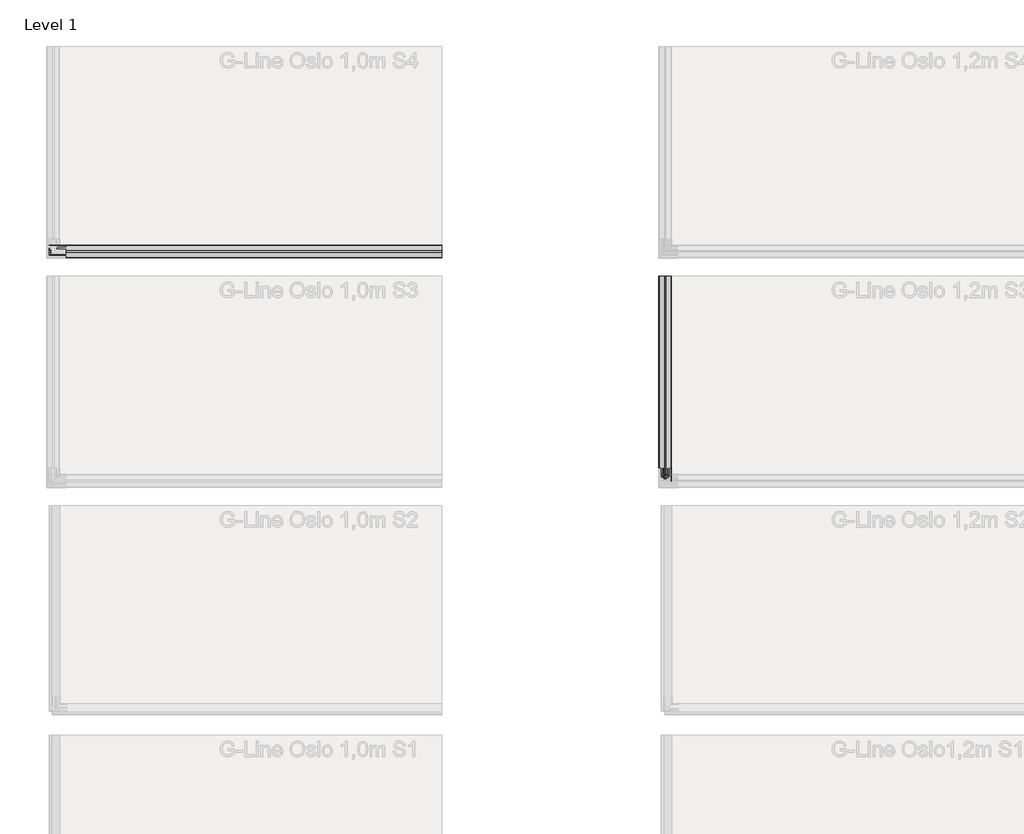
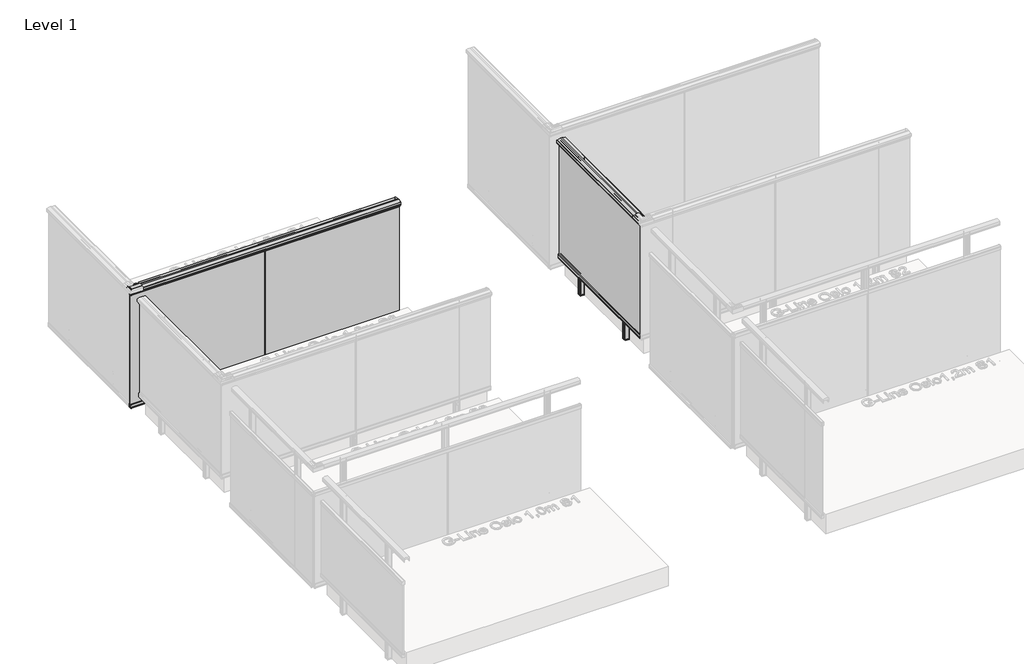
# One storey, part 45 of 66: 2 railings.
"""IFC4 building model written with IfcOpenShell, lengths in millimetres."""

from ifc_helpers import new_model, si_unit, point, frame, frame_2d, origin, place, context, project, spatial, polyline, circle_curve, trimmed, segment, composite_curve, outline, extrude, element, save

model = new_model("IFC4")

# Units and contexts
model_context = context("Model", 3, world=origin())
ifc_project = project(units=[si_unit("LENGTHUNIT", "METRE", prefix="MILLI")], contexts=[model_context])

# Site, building, storey
site = spatial("IfcSite", under=ifc_project)
building = spatial("IfcBuilding", under=site)
storey = spatial("IfcBuildingStorey", under=building, Name="Level 1", Elevation=0.0)

# Railings
placement = place(None, origin())
element("IfcRailing", 1, ObjectType="G-Line Oslo 1,0m  S4", at=placement, inside=storey, context=model_context, shape_type="SweptSolid", body=[
    extrude(outline(composite_curve([segment(polyline([(17132.289348, 970.6825033), (17131.6638671, 970.0570224), (17132.2491556, 969.4717338), (17132.289348, 965.5021186)]), True, "CONTINUOUS"), segment(trimmed(circle_curve(frame_2d((17131.789348, 965.5021186)), 0.5), [point((17132.289348, 965.5021186))], [point((17131.789348, 965.0021186))], False, "CARTESIAN"), True, "CONTINUOUS"), segment(polyline([(17131.789348, 965.0021186), (17130.789348, 965.0021186), (17130.789348, 979.5021186)]), True, "CONTINUOUS"), segment(trimmed(circle_curve(frame_2d((17130.289348, 979.5021186)), 0.5), [point((17130.789348, 979.5021186))], [point((17130.289348, 980.0021186))], True, "CARTESIAN"), True, "CONTINUOUS"), segment(polyline([(17130.289348, 980.0021186), (17052.289348, 980.0021186)]), True, "CONTINUOUS"), segment(trimmed(circle_curve(frame_2d((17052.289348, 979.5021186)), 0.5), [point((17052.289348, 980.0021186))], [point((17051.789348, 979.5021186))], True, "CARTESIAN"), True, "CONTINUOUS"), segment(polyline([(17051.789348, 979.5021186), (17051.789348, 965.0021186), (17050.789348, 965.0021186)]), True, "CONTINUOUS"), segment(trimmed(circle_curve(frame_2d((17050.789348, 965.5021186)), 0.5), [point((17050.789348, 965.0021186))], [point((17050.289348, 965.5021186))], False, "CARTESIAN"), True, "CONTINUOUS"), segment(polyline([(17050.289348, 965.5021186), (17050.289348, 969.2627449), (17050.9443234, 969.9177203), (17050.3295404, 970.5325033), (17050.289348, 991.2139911)]), True, "CONTINUOUS"), segment(trimmed(circle_curve(frame_2d((17053.289348, 991.2139911)), 3.0), [point((17050.289348, 991.2139911))], [point((17052.2228567, 994.0180233))], False, "CARTESIAN"), True, "CONTINUOUS"), segment(trimmed(circle_curve(frame_2d((17084.789348, 908.3938053)), 91.6083133), [point((17052.2228567, 994.0180233))], [point((17084.789348, 1000.0021186))], False, "CARTESIAN"), True, "CONTINUOUS"), segment(polyline([(17084.789348, 1000.0021186), (17097.789348, 1000.0021186)]), True, "CONTINUOUS"), segment(trimmed(circle_curve(frame_2d((17097.789348, 908.3938053)), 91.6083133), [point((17097.789348, 1000.0021186))], [point((17130.3558394, 994.0180233))], False, "CARTESIAN"), True, "CONTINUOUS"), segment(trimmed(circle_curve(frame_2d((17129.289348, 991.2139911)), 3.0), [point((17130.3558394, 994.0180233))], [point((17132.289348, 991.2139911))], False, "CARTESIAN"), True, "CONTINUOUS"), segment(polyline([(17132.289348, 991.2139911), (17132.289348, 970.6825033)]), True, "CONTINUOUS")], self_intersect=False)), frame((4439.0547322, 0.0, 0.0), z_axis=(1.0, 0.0, 0.0), x_axis=(0.0, 1.0, 0.0)), (0.0, 0.0, 1.0), 2565.0),
    extrude(outline(composite_curve([segment(polyline([(17082.0487504, 941.0), (17072.5287505, 941.0), (17065.2886441, 941.0)]), True, "CONTINUOUS"), segment(trimmed(circle_curve(frame_2d((17065.2886441, 941.5)), 0.5), [point((17065.2886441, 941.0))], [point((17064.7886441, 941.5))], False, "CARTESIAN"), True, "CONTINUOUS"), segment(polyline([(17064.7886441, 941.5), (17064.7886441, 969.4642612), (17065.2520415, 970.5008136), (17064.8288365, 971.3802866), (17064.7886441, 976.5)]), True, "CONTINUOUS"), segment(trimmed(circle_curve(frame_2d((17066.2886441, 976.5)), 1.5), [point((17064.7886441, 976.5))], [point((17066.2886441, 978.0))], False, "CARTESIAN"), True, "CONTINUOUS"), segment(polyline([(17066.2886441, 978.0), (17088.2886441, 978.0)]), True, "CONTINUOUS"), segment(trimmed(circle_curve(frame_2d((17088.2886441, 976.5)), 1.5), [point((17088.2886441, 978.0))], [point((17089.7886441, 976.5))], False, "CARTESIAN"), True, "CONTINUOUS"), segment(polyline([(17089.7886441, 976.5), (17089.7886441, 971.5302866), (17089.3252466, 970.5701988), (17089.7484517, 969.6142612), (17089.7484517, 941.6964102)]), True, "CONTINUOUS"), segment(trimmed(circle_curve(frame_2d((17089.2886441, 941.5)), 0.5), [point((17089.7484517, 941.6964102))], [point((17089.2886441, 941.0))], False, "CARTESIAN"), True, "CONTINUOUS"), segment(polyline([(17089.2886441, 941.0), (17082.0487504, 941.0)]), True, "CONTINUOUS")], self_intersect=False)), frame((4439.0547322, 0.0, 0.0), z_axis=(1.0, 0.0, 0.0), x_axis=(0.0, 1.0, 0.0)), (0.0, 0.0, 1.0), 2565.0),
    extrude(outline(polyline([(7004.0547322, 17081.6686441), (7004.0547322, 17072.9086441), (4439.0547322, 17072.9086441), (4439.0547322, 17081.6686441), (7004.0547322, 17081.6686441)])), frame((0.0, 0.0, -200.0), z_axis=(0.0, 0.0, 1.0), x_axis=(1.0, 0.0, 0.0)), (0.0, 0.0, 1.0), 1180.0),
    extrude(outline(composite_curve([segment(polyline([(17072.5285377, -163.0), (17082.0485377, -163.0), (17089.2886441, -163.0)]), True, "CONTINUOUS"), segment(trimmed(circle_curve(frame_2d((17089.2886441, -163.5)), 0.5), [point((17089.2886441, -163.0))], [point((17089.7886441, -163.5))], False, "CARTESIAN"), True, "CONTINUOUS"), segment(polyline([(17089.7886441, -163.5), (17089.7886441, -191.4642612), (17089.3252466, -192.5008136), (17089.7484517, -193.3802866), (17089.7886441, -198.5)]), True, "CONTINUOUS"), segment(trimmed(circle_curve(frame_2d((17088.2886441, -198.5)), 1.5), [point((17089.7886441, -198.5))], [point((17088.2886441, -200.0))], False, "CARTESIAN"), True, "CONTINUOUS"), segment(polyline([(17088.2886441, -200.0), (17066.2886441, -200.0)]), True, "CONTINUOUS"), segment(trimmed(circle_curve(frame_2d((17066.2886441, -198.5)), 1.5), [point((17066.2886441, -200.0))], [point((17064.7886441, -198.5))], False, "CARTESIAN"), True, "CONTINUOUS"), segment(polyline([(17064.7886441, -198.5), (17064.7886441, -193.5302866), (17065.2520415, -192.5701988), (17064.8288365, -191.6142612), (17064.8288365, -163.6964102)]), True, "CONTINUOUS"), segment(trimmed(circle_curve(frame_2d((17065.2886441, -163.5)), 0.5), [point((17064.8288365, -163.6964102))], [point((17065.2886441, -163.0))], False, "CARTESIAN"), True, "CONTINUOUS"), segment(polyline([(17065.2886441, -163.0), (17072.5285377, -163.0)]), True, "CONTINUOUS")], self_intersect=False)), frame((4439.0547322, 0.0, 0.0), z_axis=(1.0, 0.0, 0.0), x_axis=(0.0, 1.0, 0.0)), (0.0, 0.0, 1.0), 2565.0),
    extrude(outline(polyline([(5725.5547322, 17070.2118492), (5717.5547322, 17070.2118492), (5717.5547322, 17078.2118492), (5725.5547322, 17078.2118492), (5725.5547322, 17070.2118492)])), frame((0.0, 0.0, -200.0), z_axis=(0.0, 0.0, 1.0), x_axis=(1.0, 0.0, 0.0)), (0.0, 0.0, 1.0), 1141.0),
    extrude(outline(composite_curve([segment(polyline([(5720.7519452, 17130.2886441), (5721.5547322, 17129.4858571), (5722.3225694, 17130.2536942), (5739.3808193, 17130.2886441)]), True, "CONTINUOUS"), segment(trimmed(circle_curve(frame_2d((5739.3808192, 17128.114731)), 2.173913), [point((5739.3808193, 17130.2886441))], [point((5741.5547322, 17128.114731))], False, "CARTESIAN"), True, "CONTINUOUS"), segment(polyline([(5741.5547322, 17128.114731), (5741.5547322, 17092.4625571)]), True, "CONTINUOUS"), segment(trimmed(circle_curve(frame_2d((5739.3808192, 17092.4625571)), 2.173913), [point((5741.5547322, 17092.4625571))], [point((5739.3808192, 17090.2886441))], False, "CARTESIAN"), True, "CONTINUOUS"), segment(polyline([(5739.3808192, 17090.2886441), (5722.3225694, 17090.323594), (5721.5547322, 17091.0914311), (5720.7868951, 17090.323594), (5703.7286453, 17090.2886441)]), True, "CONTINUOUS"), segment(trimmed(circle_curve(frame_2d((5703.7286453, 17092.4625571)), 2.173913), [point((5703.7286453, 17090.2886441))], [point((5701.5547322, 17092.4625571))], False, "CARTESIAN"), True, "CONTINUOUS"), segment(polyline([(5701.5547322, 17092.4625571), (5701.5547322, 17128.114731)]), True, "CONTINUOUS"), segment(trimmed(circle_curve(frame_2d((5703.7286453, 17128.114731)), 2.173913), [point((5701.5547322, 17128.114731))], [point((5703.7286453, 17130.2886441))], False, "CARTESIAN"), True, "CONTINUOUS"), segment(polyline([(5703.7286453, 17130.2886441), (5720.7519452, 17130.2886441)]), True, "CONTINUOUS")], self_intersect=False)), frame((0.0, 0.0, -200.0), z_axis=(0.0, 0.0, 1.0), x_axis=(1.0, 0.0, 0.0)), (0.0, 0.0, 1.0), 10.0),
    extrude(outline(composite_curve([segment(polyline([(5741.5547322, 17128.114731), (5741.5547322, 17092.4625571)]), True, "CONTINUOUS"), segment(trimmed(circle_curve(frame_2d((5739.3808192, 17092.4625571)), 2.173913), [point((5741.5547322, 17092.4625571))], [point((5739.3808192, 17090.2886441))], False, "CARTESIAN"), True, "CONTINUOUS"), segment(polyline([(5739.3808192, 17090.2886441), (5722.3225694, 17090.323594), (5721.5547322, 17091.0914311), (5720.7868951, 17090.323594), (5703.7286453, 17090.2886441)]), True, "CONTINUOUS"), segment(trimmed(circle_curve(frame_2d((5703.7286453, 17092.4625571)), 2.173913), [point((5703.7286453, 17090.2886441))], [point((5701.5547322, 17092.4625571))], False, "CARTESIAN"), True, "CONTINUOUS"), segment(polyline([(5701.5547322, 17092.4625571), (5701.5547322, 17128.114731)]), True, "CONTINUOUS"), segment(trimmed(circle_curve(frame_2d((5703.7286453, 17128.114731)), 2.173913), [point((5701.5547322, 17128.114731))], [point((5703.7286453, 17130.2886441))], False, "CARTESIAN"), True, "CONTINUOUS"), segment(polyline([(5703.7286453, 17130.2886441), (5720.6564603, 17130.2886441), (5721.4242975, 17129.8856898), (5722.3225694, 17130.2536942), (5739.3808192, 17130.2886441)]), True, "CONTINUOUS"), segment(trimmed(circle_curve(frame_2d((5739.3808192, 17128.114731)), 2.173913), [point((5739.3808192, 17130.2886441))], [point((5741.5547322, 17128.114731))], False, "CARTESIAN"), True, "CONTINUOUS")], self_intersect=False), holes=[composite_curve([segment(trimmed(circle_curve(frame_2d((5737.2069062, 17125.940818)), 0.8695652), [point((5738.0764714, 17125.940818))], [point((5737.2069062, 17126.8103832))], True, "CARTESIAN"), True, "CONTINUOUS"), segment(polyline([(5737.2069062, 17126.8103832), (5705.9025583, 17126.8103832)]), True, "CONTINUOUS"), segment(trimmed(circle_curve(frame_2d((5705.9025583, 17125.940818)), 0.8695652), [point((5705.9025583, 17126.8103832))], [point((5705.0329931, 17125.940818))], True, "CARTESIAN"), True, "CONTINUOUS"), segment(polyline([(5705.0329931, 17125.940818), (5705.0329931, 17094.6364702)]), True, "CONTINUOUS"), segment(trimmed(circle_curve(frame_2d((5705.9025583, 17094.6364702)), 0.8695652), [point((5705.0329931, 17094.6364702))], [point((5705.9025583, 17093.766905))], True, "CARTESIAN"), True, "CONTINUOUS"), segment(polyline([(5705.9025583, 17093.766905), (5737.2069062, 17093.766905)]), True, "CONTINUOUS"), segment(trimmed(circle_curve(frame_2d((5737.2069062, 17094.6364702)), 0.8695652), [point((5737.2069062, 17093.766905))], [point((5738.0764714, 17094.6364702))], True, "CARTESIAN"), True, "CONTINUOUS"), segment(polyline([(5738.0764714, 17094.6364702), (5738.0764714, 17125.940818)]), True, "CONTINUOUS")], self_intersect=False)]), frame((0.0, 0.0, -190.0), z_axis=(0.0, 0.0, 1.0), x_axis=(1.0, 0.0, 0.0)), (0.0, 0.0, 1.0), 1171.0),
    extrude(outline(composite_curve([segment(trimmed(circle_curve(frame_2d((0.0, -12.0)), 12.0), [point((0.0, -23.9999999))], [point((0.0, 0.0))], False, "CARTESIAN"), True, "CONTINUOUS"), segment(trimmed(circle_curve(frame_2d((0.0, -12.0)), 12.0), [point((0.0, 0.0))], [point((0.0, -23.9999999))], False, "CARTESIAN"), True, "CONTINUOUS")], self_intersect=False)), frame((5733.5650091, 17087.2248149, -151.0), z_axis=(-0.0004029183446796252, 0.9999999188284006, 0.0), x_axis=(0.0, 0.0, 1.0)), (0.0, 0.0, 1.0), 3.0757477),
    extrude(outline(composite_curve([segment(trimmed(circle_curve(frame_2d((0.0, -12.0)), 12.0), [point((0.0, -23.9999999))], [point((0.0, 0.0))], False, "CARTESIAN"), True, "CONTINUOUS"), segment(trimmed(circle_curve(frame_2d((0.0, -12.0)), 12.0), [point((0.0, 0.0))], [point((0.0, -23.9999999))], False, "CARTESIAN"), True, "CONTINUOUS")], self_intersect=False)), frame((5733.5650091, 17087.2248149, -50.0), z_axis=(-0.0004029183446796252, 0.9999999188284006, 0.0), x_axis=(0.0, 0.0, 1.0)), (0.0, 0.0, 1.0), 3.0757477),
    extrude(outline(composite_curve([segment(polyline([(4738.2519452, 17130.2886441), (4739.0547322, 17129.4858571), (4739.8225694, 17130.2536942), (4756.8808193, 17130.2886441)]), True, "CONTINUOUS"), segment(trimmed(circle_curve(frame_2d((4756.8808192, 17128.114731)), 2.173913), [point((4756.8808193, 17130.2886441))], [point((4759.0547322, 17128.114731))], False, "CARTESIAN"), True, "CONTINUOUS"), segment(polyline([(4759.0547322, 17128.114731), (4759.0547322, 17092.4625571)]), True, "CONTINUOUS"), segment(trimmed(circle_curve(frame_2d((4756.8808192, 17092.4625571)), 2.173913), [point((4759.0547322, 17092.4625571))], [point((4756.8808192, 17090.2886441))], False, "CARTESIAN"), True, "CONTINUOUS"), segment(polyline([(4756.8808192, 17090.2886441), (4739.8225694, 17090.323594), (4739.0547322, 17091.0914311), (4738.2868951, 17090.323594), (4721.2286453, 17090.2886441)]), True, "CONTINUOUS"), segment(trimmed(circle_curve(frame_2d((4721.2286453, 17092.4625571)), 2.173913), [point((4721.2286453, 17090.2886441))], [point((4719.0547322, 17092.4625571))], False, "CARTESIAN"), True, "CONTINUOUS"), segment(polyline([(4719.0547322, 17092.4625571), (4719.0547322, 17128.114731)]), True, "CONTINUOUS"), segment(trimmed(circle_curve(frame_2d((4721.2286453, 17128.114731)), 2.173913), [point((4719.0547322, 17128.114731))], [point((4721.2286453, 17130.2886441))], False, "CARTESIAN"), True, "CONTINUOUS"), segment(polyline([(4721.2286453, 17130.2886441), (4738.2519452, 17130.2886441)]), True, "CONTINUOUS")], self_intersect=False)), frame((0.0, 0.0, -200.0), z_axis=(0.0, 0.0, 1.0), x_axis=(1.0, 0.0, 0.0)), (0.0, 0.0, 1.0), 10.0),
    extrude(outline(composite_curve([segment(polyline([(4759.0547322, 17128.114731), (4759.0547322, 17092.4625571)]), True, "CONTINUOUS"), segment(trimmed(circle_curve(frame_2d((4756.8808192, 17092.4625571)), 2.173913), [point((4759.0547322, 17092.4625571))], [point((4756.8808192, 17090.2886441))], False, "CARTESIAN"), True, "CONTINUOUS"), segment(polyline([(4756.8808192, 17090.2886441), (4739.8225694, 17090.323594), (4739.0547322, 17091.0914311), (4738.2868951, 17090.323594), (4721.2286453, 17090.2886441)]), True, "CONTINUOUS"), segment(trimmed(circle_curve(frame_2d((4721.2286453, 17092.4625571)), 2.173913), [point((4721.2286453, 17090.2886441))], [point((4719.0547322, 17092.4625571))], False, "CARTESIAN"), True, "CONTINUOUS"), segment(polyline([(4719.0547322, 17092.4625571), (4719.0547322, 17128.114731)]), True, "CONTINUOUS"), segment(trimmed(circle_curve(frame_2d((4721.2286453, 17128.114731)), 2.173913), [point((4719.0547322, 17128.114731))], [point((4721.2286453, 17130.2886441))], False, "CARTESIAN"), True, "CONTINUOUS"), segment(polyline([(4721.2286453, 17130.2886441), (4738.1564603, 17130.2886441), (4738.9242975, 17129.8856898), (4739.8225694, 17130.2536942), (4756.8808192, 17130.2886441)]), True, "CONTINUOUS"), segment(trimmed(circle_curve(frame_2d((4756.8808192, 17128.114731)), 2.173913), [point((4756.8808192, 17130.2886441))], [point((4759.0547322, 17128.114731))], False, "CARTESIAN"), True, "CONTINUOUS")], self_intersect=False), holes=[composite_curve([segment(trimmed(circle_curve(frame_2d((4754.7069062, 17125.940818)), 0.8695652), [point((4755.5764714, 17125.940818))], [point((4754.7069062, 17126.8103832))], True, "CARTESIAN"), True, "CONTINUOUS"), segment(polyline([(4754.7069062, 17126.8103832), (4723.4025583, 17126.8103832)]), True, "CONTINUOUS"), segment(trimmed(circle_curve(frame_2d((4723.4025583, 17125.940818)), 0.8695652), [point((4723.4025583, 17126.8103832))], [point((4722.5329931, 17125.940818))], True, "CARTESIAN"), True, "CONTINUOUS"), segment(polyline([(4722.5329931, 17125.940818), (4722.5329931, 17094.6364702)]), True, "CONTINUOUS"), segment(trimmed(circle_curve(frame_2d((4723.4025583, 17094.6364702)), 0.8695652), [point((4722.5329931, 17094.6364702))], [point((4723.4025583, 17093.766905))], True, "CARTESIAN"), True, "CONTINUOUS"), segment(polyline([(4723.4025583, 17093.766905), (4754.7069062, 17093.766905)]), True, "CONTINUOUS"), segment(trimmed(circle_curve(frame_2d((4754.7069062, 17094.6364702)), 0.8695652), [point((4754.7069062, 17093.766905))], [point((4755.5764714, 17094.6364702))], True, "CARTESIAN"), True, "CONTINUOUS"), segment(polyline([(4755.5764714, 17094.6364702), (4755.5764714, 17125.940818)]), True, "CONTINUOUS")], self_intersect=False)]), frame((0.0, 0.0, -190.0), z_axis=(0.0, 0.0, 1.0), x_axis=(1.0, 0.0, 0.0)), (0.0, 0.0, 1.0), 1171.0),
    extrude(outline(composite_curve([segment(trimmed(circle_curve(frame_2d((0.0, -12.0)), 12.0), [point((0.0, -23.9999999))], [point((0.0, 0.0))], False, "CARTESIAN"), True, "CONTINUOUS"), segment(trimmed(circle_curve(frame_2d((0.0, -12.0)), 12.0), [point((0.0, 0.0))], [point((0.0, -23.9999999))], False, "CARTESIAN"), True, "CONTINUOUS")], self_intersect=False)), frame((4751.0650091, 17087.2248149, -151.0), z_axis=(-0.0004029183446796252, 0.9999999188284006, 0.0), x_axis=(0.0, 0.0, 1.0)), (0.0, 0.0, 1.0), 3.0757477),
    extrude(outline(composite_curve([segment(trimmed(circle_curve(frame_2d((0.0, -12.0)), 12.0), [point((0.0, -23.9999999))], [point((0.0, 0.0))], False, "CARTESIAN"), True, "CONTINUOUS"), segment(trimmed(circle_curve(frame_2d((0.0, -12.0)), 12.0), [point((0.0, 0.0))], [point((0.0, -23.9999999))], False, "CARTESIAN"), True, "CONTINUOUS")], self_intersect=False)), frame((4751.0650091, 17087.2248149, -50.0), z_axis=(-0.0004029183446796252, 0.9999999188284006, 0.0), x_axis=(0.0, 0.0, 1.0)), (0.0, 0.0, 1.0), 3.0757477),
    extrude(outline(composite_curve([segment(polyline([(6703.2519452, 17130.2886441), (6704.0547322, 17129.4858571), (6704.8225694, 17130.2536942), (6721.8808193, 17130.2886441)]), True, "CONTINUOUS"), segment(trimmed(circle_curve(frame_2d((6721.8808192, 17128.114731)), 2.173913), [point((6721.8808193, 17130.2886441))], [point((6724.0547322, 17128.114731))], False, "CARTESIAN"), True, "CONTINUOUS"), segment(polyline([(6724.0547322, 17128.114731), (6724.0547322, 17092.4625571)]), True, "CONTINUOUS"), segment(trimmed(circle_curve(frame_2d((6721.8808192, 17092.4625571)), 2.173913), [point((6724.0547322, 17092.4625571))], [point((6721.8808192, 17090.2886441))], False, "CARTESIAN"), True, "CONTINUOUS"), segment(polyline([(6721.8808192, 17090.2886441), (6704.8225694, 17090.323594), (6704.0547322, 17091.0914311), (6703.2868951, 17090.323594), (6686.2286453, 17090.2886441)]), True, "CONTINUOUS"), segment(trimmed(circle_curve(frame_2d((6686.2286453, 17092.4625571)), 2.173913), [point((6686.2286453, 17090.2886441))], [point((6684.0547322, 17092.4625571))], False, "CARTESIAN"), True, "CONTINUOUS"), segment(polyline([(6684.0547322, 17092.4625571), (6684.0547322, 17128.114731)]), True, "CONTINUOUS"), segment(trimmed(circle_curve(frame_2d((6686.2286453, 17128.114731)), 2.173913), [point((6684.0547322, 17128.114731))], [point((6686.2286453, 17130.2886441))], False, "CARTESIAN"), True, "CONTINUOUS"), segment(polyline([(6686.2286453, 17130.2886441), (6703.2519452, 17130.2886441)]), True, "CONTINUOUS")], self_intersect=False)), frame((0.0, 0.0, -200.0), z_axis=(0.0, 0.0, 1.0), x_axis=(1.0, 0.0, 0.0)), (0.0, 0.0, 1.0), 10.0),
    extrude(outline(composite_curve([segment(polyline([(6724.0547322, 17128.114731), (6724.0547322, 17092.4625571)]), True, "CONTINUOUS"), segment(trimmed(circle_curve(frame_2d((6721.8808192, 17092.4625571)), 2.173913), [point((6724.0547322, 17092.4625571))], [point((6721.8808192, 17090.2886441))], False, "CARTESIAN"), True, "CONTINUOUS"), segment(polyline([(6721.8808192, 17090.2886441), (6704.8225694, 17090.323594), (6704.0547322, 17091.0914311), (6703.2868951, 17090.323594), (6686.2286453, 17090.2886441)]), True, "CONTINUOUS"), segment(trimmed(circle_curve(frame_2d((6686.2286453, 17092.4625571)), 2.173913), [point((6686.2286453, 17090.2886441))], [point((6684.0547322, 17092.4625571))], False, "CARTESIAN"), True, "CONTINUOUS"), segment(polyline([(6684.0547322, 17092.4625571), (6684.0547322, 17128.114731)]), True, "CONTINUOUS"), segment(trimmed(circle_curve(frame_2d((6686.2286453, 17128.114731)), 2.173913), [point((6684.0547322, 17128.114731))], [point((6686.2286453, 17130.2886441))], False, "CARTESIAN"), True, "CONTINUOUS"), segment(polyline([(6686.2286453, 17130.2886441), (6703.1564603, 17130.2886441), (6703.9242975, 17129.8856898), (6704.8225694, 17130.2536942), (6721.8808192, 17130.2886441)]), True, "CONTINUOUS"), segment(trimmed(circle_curve(frame_2d((6721.8808192, 17128.114731)), 2.173913), [point((6721.8808192, 17130.2886441))], [point((6724.0547322, 17128.114731))], False, "CARTESIAN"), True, "CONTINUOUS")], self_intersect=False), holes=[composite_curve([segment(trimmed(circle_curve(frame_2d((6719.7069062, 17125.940818)), 0.8695652), [point((6720.5764714, 17125.940818))], [point((6719.7069062, 17126.8103832))], True, "CARTESIAN"), True, "CONTINUOUS"), segment(polyline([(6719.7069062, 17126.8103832), (6688.4025583, 17126.8103832)]), True, "CONTINUOUS"), segment(trimmed(circle_curve(frame_2d((6688.4025583, 17125.940818)), 0.8695652), [point((6688.4025583, 17126.8103832))], [point((6687.5329931, 17125.940818))], True, "CARTESIAN"), True, "CONTINUOUS"), segment(polyline([(6687.5329931, 17125.940818), (6687.5329931, 17094.6364702)]), True, "CONTINUOUS"), segment(trimmed(circle_curve(frame_2d((6688.4025583, 17094.6364702)), 0.8695652), [point((6687.5329931, 17094.6364702))], [point((6688.4025583, 17093.766905))], True, "CARTESIAN"), True, "CONTINUOUS"), segment(polyline([(6688.4025583, 17093.766905), (6719.7069062, 17093.766905)]), True, "CONTINUOUS"), segment(trimmed(circle_curve(frame_2d((6719.7069062, 17094.6364702)), 0.8695652), [point((6719.7069062, 17093.766905))], [point((6720.5764714, 17094.6364702))], True, "CARTESIAN"), True, "CONTINUOUS"), segment(polyline([(6720.5764714, 17094.6364702), (6720.5764714, 17125.940818)]), True, "CONTINUOUS")], self_intersect=False)]), frame((0.0, 0.0, -190.0), z_axis=(0.0, 0.0, 1.0), x_axis=(1.0, 0.0, 0.0)), (0.0, 0.0, 1.0), 1171.0),
    extrude(outline(composite_curve([segment(trimmed(circle_curve(frame_2d((0.0, -12.0)), 12.0), [point((0.0, -23.9999999))], [point((0.0, 0.0))], False, "CARTESIAN"), True, "CONTINUOUS"), segment(trimmed(circle_curve(frame_2d((0.0, -12.0)), 12.0), [point((0.0, 0.0))], [point((0.0, -23.9999999))], False, "CARTESIAN"), True, "CONTINUOUS")], self_intersect=False)), frame((6716.0650091, 17087.2248149, -151.0), z_axis=(-0.0004029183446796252, 0.9999999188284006, 0.0), x_axis=(0.0, 0.0, 1.0)), (0.0, 0.0, 1.0), 3.0757477),
    extrude(outline(composite_curve([segment(trimmed(circle_curve(frame_2d((0.0, -12.0)), 12.0), [point((0.0, -23.9999999))], [point((0.0, 0.0))], False, "CARTESIAN"), True, "CONTINUOUS"), segment(trimmed(circle_curve(frame_2d((0.0, -12.0)), 12.0), [point((0.0, 0.0))], [point((0.0, -23.9999999))], False, "CARTESIAN"), True, "CONTINUOUS")], self_intersect=False)), frame((6716.0650091, 17087.2248149, -50.0), z_axis=(-0.0004029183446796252, 0.9999999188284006, 0.0), x_axis=(0.0, 0.0, 1.0)), (0.0, 0.0, 1.0), 3.0757477),
])
element("IfcRailing", 2, ObjectType="G-Line Oslo 1,2m  S3", at=placement, inside=storey, context=model_context, shape_type="SweptSolid", body=[
    extrude(outline(composite_curve([segment(polyline([(1170.6825033, 8424.0540283), (1170.0570224, 8424.6795093), (1169.4717338, 8424.0942207), (1165.5021186, 8424.0540283)]), True, "CONTINUOUS"), segment(trimmed(circle_curve(frame_2d((1165.5021186, 8424.5540283)), 0.5), [point((1165.5021186, 8424.0540283))], [point((1165.0021186, 8424.5540283))], False, "CARTESIAN"), True, "CONTINUOUS"), segment(polyline([(1165.0021186, 8424.5540283), (1165.0021186, 8425.5540283), (1179.5021186, 8425.5540283)]), True, "CONTINUOUS"), segment(trimmed(circle_curve(frame_2d((1179.5021186, 8426.0540283)), 0.5), [point((1179.5021186, 8425.5540283))], [point((1180.0021186, 8426.0540283))], True, "CARTESIAN"), True, "CONTINUOUS"), segment(polyline([(1180.0021186, 8426.0540283), (1180.0021186, 8504.0540283)]), True, "CONTINUOUS"), segment(trimmed(circle_curve(frame_2d((1179.5021186, 8504.0540283)), 0.5), [point((1180.0021186, 8504.0540283))], [point((1179.5021186, 8504.5540283))], True, "CARTESIAN"), True, "CONTINUOUS"), segment(polyline([(1179.5021186, 8504.5540283), (1165.0021186, 8504.5540283), (1165.0021186, 8505.5540283)]), True, "CONTINUOUS"), segment(trimmed(circle_curve(frame_2d((1165.5021186, 8505.5540283)), 0.5), [point((1165.0021186, 8505.5540283))], [point((1165.5021186, 8506.0540283))], False, "CARTESIAN"), True, "CONTINUOUS"), segment(polyline([(1165.5021186, 8506.0540283), (1169.2627449, 8506.0540283), (1169.9177203, 8505.3990529), (1170.5325033, 8506.0138359), (1191.2139911, 8506.0540283)]), True, "CONTINUOUS"), segment(trimmed(circle_curve(frame_2d((1191.2139911, 8503.0540283)), 3.0), [point((1191.2139911, 8506.0540283))], [point((1194.0180233, 8504.1205197))], False, "CARTESIAN"), True, "CONTINUOUS"), segment(trimmed(circle_curve(frame_2d((1108.3938053, 8471.5540283)), 91.6083133), [point((1194.0180233, 8504.1205197))], [point((1200.0021186, 8471.5540283))], False, "CARTESIAN"), True, "CONTINUOUS"), segment(polyline([(1200.0021186, 8471.5540283), (1200.0021186, 8458.5540283)]), True, "CONTINUOUS"), segment(trimmed(circle_curve(frame_2d((1108.3938053, 8458.5540283)), 91.6083133), [point((1200.0021186, 8458.5540283))], [point((1194.0180233, 8425.987537))], False, "CARTESIAN"), True, "CONTINUOUS"), segment(trimmed(circle_curve(frame_2d((1191.2139911, 8427.0540283)), 3.0), [point((1194.0180233, 8425.987537))], [point((1191.2139911, 8424.0540283))], False, "CARTESIAN"), True, "CONTINUOUS"), segment(polyline([(1191.2139911, 8424.0540283), (1170.6825033, 8424.0540283)]), True, "CONTINUOUS")], self_intersect=False)), frame((0.0, 15590.2886441, 0.0), z_axis=(0.0, 1.0, 0.0), x_axis=(0.0, 0.0, 1.0)), (0.0, 0.0, 1.0), 1340.0),
    extrude(outline(composite_curve([segment(polyline([(1141.0, 8455.8148386), (1141.0, 8463.0547322)]), True, "CONTINUOUS"), segment(trimmed(circle_curve(frame_2d((1141.5, 8463.0547322)), 0.5), [point((1141.0, 8463.0547322))], [point((1141.6964102, 8463.5145399))], False, "CARTESIAN"), True, "CONTINUOUS"), segment(polyline([(1141.6964102, 8463.5145399), (1169.6142612, 8463.5145399), (1170.5701988, 8463.0913348), (1171.5302866, 8463.5547322), (1176.5, 8463.5547322)]), True, "CONTINUOUS"), segment(trimmed(circle_curve(frame_2d((1176.5, 8462.0547322)), 1.5), [point((1176.5, 8463.5547322))], [point((1178.0, 8462.0547322))], False, "CARTESIAN"), True, "CONTINUOUS"), segment(polyline([(1178.0, 8462.0547322), (1178.0, 8440.0547322)]), True, "CONTINUOUS"), segment(trimmed(circle_curve(frame_2d((1176.5, 8440.0547322)), 1.5), [point((1178.0, 8440.0547322))], [point((1176.5, 8438.5547322))], False, "CARTESIAN"), True, "CONTINUOUS"), segment(polyline([(1176.5, 8438.5547322), (1171.3802866, 8438.5949246), (1170.5008136, 8439.0181297), (1169.4642612, 8438.5547322), (1141.5, 8438.5547322)]), True, "CONTINUOUS"), segment(trimmed(circle_curve(frame_2d((1141.5, 8439.0547322)), 0.5), [point((1141.5, 8438.5547322))], [point((1141.0, 8439.0547322))], False, "CARTESIAN"), True, "CONTINUOUS"), segment(polyline([(1141.0, 8439.0547322), (1141.0, 8446.2948387), (1141.0, 8455.8148386)]), True, "CONTINUOUS")], self_intersect=False)), frame((0.0, 15590.2886441, 0.0), z_axis=(0.0, 1.0, 0.0), x_axis=(0.0, 0.0, 1.0)), (0.0, 0.0, 1.0), 1340.0),
    extrude(outline(polyline([(8446.6747322, 16930.2886441), (8455.4347322, 16930.2886441), (8455.4347322, 15590.2886441), (8446.6747322, 15590.2886441), (8446.6747322, 16930.2886441)])), frame((0.0, 0.0, 28.0), z_axis=(0.0, 0.0, 1.0), x_axis=(1.0, 0.0, 0.0)), (0.0, 0.0, 1.0), 1152.0),
    extrude(outline(composite_curve([segment(polyline([(37.0, 8446.2946259), (37.0, 8439.0547322)]), True, "CONTINUOUS"), segment(trimmed(circle_curve(frame_2d((36.5, 8439.0547322)), 0.5), [point((37.0, 8439.0547322))], [point((36.3035898, 8438.5949246))], False, "CARTESIAN"), True, "CONTINUOUS"), segment(polyline([(36.3035898, 8438.5949246), (8.3857388, 8438.5949246), (7.4298012, 8439.0181297), (6.4697134, 8438.5547322), (1.5, 8438.5547322)]), True, "CONTINUOUS"), segment(trimmed(circle_curve(frame_2d((1.5, 8440.0547322)), 1.5), [point((1.5, 8438.5547322))], [point((0.0, 8440.0547322))], False, "CARTESIAN"), True, "CONTINUOUS"), segment(polyline([(0.0, 8440.0547322), (0.0, 8462.0547322)]), True, "CONTINUOUS"), segment(trimmed(circle_curve(frame_2d((1.5, 8462.0547322)), 1.5), [point((0.0, 8462.0547322))], [point((1.5, 8463.5547322))], False, "CARTESIAN"), True, "CONTINUOUS"), segment(polyline([(1.5, 8463.5547322), (6.6197134, 8463.5145399), (7.4991864, 8463.0913348), (8.5357388, 8463.5547322), (36.5, 8463.5547322)]), True, "CONTINUOUS"), segment(trimmed(circle_curve(frame_2d((36.5, 8463.0547322)), 0.5), [point((36.5, 8463.5547322))], [point((37.0, 8463.0547322))], False, "CARTESIAN"), True, "CONTINUOUS"), segment(polyline([(37.0, 8463.0547322), (37.0, 8455.8146258), (37.0, 8446.2946259)]), True, "CONTINUOUS")], self_intersect=False)), frame((0.0, 15590.2886441, 0.0), z_axis=(0.0, 1.0, 0.0), x_axis=(0.0, 0.0, 1.0)), (0.0, 0.0, 1.0), 1340.0),
    extrude(outline(composite_curve([segment(polyline([(8504.0547322, 15889.4858571), (8504.0547322, 15872.4625571)]), True, "CONTINUOUS"), segment(trimmed(circle_curve(frame_2d((8501.8808192, 15872.4625571)), 2.173913), [point((8504.0547322, 15872.4625571))], [point((8501.8808192, 15870.2886441))], False, "CARTESIAN"), True, "CONTINUOUS"), segment(polyline([(8501.8808192, 15870.2886441), (8466.2286453, 15870.2886441)]), True, "CONTINUOUS"), segment(trimmed(circle_curve(frame_2d((8466.2286453, 15872.4625571)), 2.173913), [point((8466.2286453, 15870.2886441))], [point((8464.0547322, 15872.4625571))], False, "CARTESIAN"), True, "CONTINUOUS"), segment(polyline([(8464.0547322, 15872.4625571), (8464.0896821, 15889.520807), (8464.8575193, 15890.2886441), (8464.0896821, 15891.0564812), (8464.0547322, 15908.114731)]), True, "CONTINUOUS"), segment(trimmed(circle_curve(frame_2d((8466.2286453, 15908.114731)), 2.173913), [point((8464.0547322, 15908.114731))], [point((8466.2286453, 15910.2886441))], False, "CARTESIAN"), True, "CONTINUOUS"), segment(polyline([(8466.2286453, 15910.2886441), (8501.8808192, 15910.2886441)]), True, "CONTINUOUS"), segment(trimmed(circle_curve(frame_2d((8501.8808192, 15908.114731)), 2.173913), [point((8501.8808192, 15910.2886441))], [point((8504.0547322, 15908.1147311))], False, "CARTESIAN"), True, "CONTINUOUS"), segment(polyline([(8504.0547322, 15908.1147311), (8504.0197823, 15891.0564812), (8503.2519452, 15890.2886441), (8504.0547322, 15889.4858571)]), True, "CONTINUOUS")], self_intersect=False)), frame((0.0, 0.0, -200.0), z_axis=(0.0, 0.0, 1.0), x_axis=(1.0, 0.0, 0.0)), (0.0, 0.0, 1.0), 10.0),
    extrude(outline(composite_curve([segment(trimmed(circle_curve(frame_2d((0.0, 12.0000001)), 12.0), [point((0.0, 24.0))], [point((0.0, 0.0))], False, "CARTESIAN"), True, "CONTINUOUS"), segment(trimmed(circle_curve(frame_2d((0.0, 12.0000001)), 12.0), [point((0.0, 0.0))], [point((0.0, 24.0))], False, "CARTESIAN"), True, "CONTINUOUS")], self_intersect=False)), frame((8464.0666505, 15902.2976817, -151.0), z_axis=(-0.9999999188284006, 0.00040291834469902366, 0.0), x_axis=(0.0, 0.0, -1.0)), (0.0, 0.0, 1.0), 3.0757477),
    extrude(outline(composite_curve([segment(trimmed(circle_curve(frame_2d((0.0, 12.0000001)), 12.0), [point((0.0, 24.0))], [point((0.0, 0.0))], False, "CARTESIAN"), True, "CONTINUOUS"), segment(trimmed(circle_curve(frame_2d((0.0, 12.0000001)), 12.0), [point((0.0, 0.0))], [point((0.0, 24.0))], False, "CARTESIAN"), True, "CONTINUOUS")], self_intersect=False)), frame((8464.0666505, 15902.2976817, -50.0), z_axis=(-0.9999999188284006, 0.00040291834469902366, 0.0), x_axis=(0.0, 0.0, -1.0)), (0.0, 0.0, 1.0), 3.0757477),
    extrude(outline(composite_curve([segment(trimmed(circle_curve(frame_2d((8501.8808192, 15908.114731)), 2.173913), [point((8501.8808192, 15910.2886441))], [point((8504.0547322, 15908.114731))], False, "CARTESIAN"), True, "CONTINUOUS"), segment(polyline([(8504.0547322, 15908.114731), (8504.0197823, 15891.0564812), (8503.6517779, 15890.1582093), (8504.0547322, 15889.3903722), (8504.0547322, 15872.4625571)]), True, "CONTINUOUS"), segment(trimmed(circle_curve(frame_2d((8501.8808192, 15872.4625571)), 2.173913), [point((8504.0547322, 15872.4625571))], [point((8501.8808192, 15870.2886441))], False, "CARTESIAN"), True, "CONTINUOUS"), segment(polyline([(8501.8808192, 15870.2886441), (8466.2286453, 15870.2886441)]), True, "CONTINUOUS"), segment(trimmed(circle_curve(frame_2d((8466.2286453, 15872.4625571)), 2.173913), [point((8466.2286453, 15870.2886441))], [point((8464.0547322, 15872.4625571))], False, "CARTESIAN"), True, "CONTINUOUS"), segment(polyline([(8464.0547322, 15872.4625571), (8464.0896821, 15889.520807), (8464.8575193, 15890.2886441), (8464.0896821, 15891.0564812), (8464.0547322, 15908.114731)]), True, "CONTINUOUS"), segment(trimmed(circle_curve(frame_2d((8466.2286453, 15908.114731)), 2.173913), [point((8464.0547322, 15908.114731))], [point((8466.2286453, 15910.2886441))], False, "CARTESIAN"), True, "CONTINUOUS"), segment(polyline([(8466.2286453, 15910.2886441), (8501.8808192, 15910.2886441)]), True, "CONTINUOUS")], self_intersect=False), holes=[composite_curve([segment(polyline([(8499.7069062, 15906.8103832), (8468.4025583, 15906.8103832)]), True, "CONTINUOUS"), segment(trimmed(circle_curve(frame_2d((8468.4025583, 15905.940818)), 0.8695652), [point((8468.4025583, 15906.8103832))], [point((8467.5329931, 15905.940818))], True, "CARTESIAN"), True, "CONTINUOUS"), segment(polyline([(8467.5329931, 15905.940818), (8467.5329931, 15874.6364702)]), True, "CONTINUOUS"), segment(trimmed(circle_curve(frame_2d((8468.4025583, 15874.6364702)), 0.8695652), [point((8467.5329931, 15874.6364702))], [point((8468.4025583, 15873.766905))], True, "CARTESIAN"), True, "CONTINUOUS"), segment(polyline([(8468.4025583, 15873.766905), (8499.7069062, 15873.766905)]), True, "CONTINUOUS"), segment(trimmed(circle_curve(frame_2d((8499.7069062, 15874.6364702)), 0.8695652), [point((8499.7069062, 15873.766905))], [point((8500.5764714, 15874.6364702))], True, "CARTESIAN"), True, "CONTINUOUS"), segment(polyline([(8500.5764714, 15874.6364702), (8500.5764714, 15905.940818)]), True, "CONTINUOUS"), segment(trimmed(circle_curve(frame_2d((8499.7069062, 15905.940818)), 0.8695652), [point((8500.5764714, 15905.940818))], [point((8499.7069062, 15906.8103832))], True, "CARTESIAN"), True, "CONTINUOUS")], self_intersect=False)]), frame((0.0, 0.0, -190.0), z_axis=(0.0, 0.0, 1.0), x_axis=(1.0, 0.0, 0.0)), (0.0, 0.0, 1.0), 1371.0),
    extrude(outline(composite_curve([segment(polyline([(8504.0547322, 16629.4858571), (8504.0547322, 16612.4625571)]), True, "CONTINUOUS"), segment(trimmed(circle_curve(frame_2d((8501.8808192, 16612.4625571)), 2.173913), [point((8504.0547322, 16612.4625571))], [point((8501.8808192, 16610.2886441))], False, "CARTESIAN"), True, "CONTINUOUS"), segment(polyline([(8501.8808192, 16610.2886441), (8466.2286453, 16610.2886441)]), True, "CONTINUOUS"), segment(trimmed(circle_curve(frame_2d((8466.2286453, 16612.4625571)), 2.173913), [point((8466.2286453, 16610.2886441))], [point((8464.0547322, 16612.4625571))], False, "CARTESIAN"), True, "CONTINUOUS"), segment(polyline([(8464.0547322, 16612.4625571), (8464.0896821, 16629.520807), (8464.8575193, 16630.2886441), (8464.0896821, 16631.0564812), (8464.0547322, 16648.114731)]), True, "CONTINUOUS"), segment(trimmed(circle_curve(frame_2d((8466.2286453, 16648.114731)), 2.173913), [point((8464.0547322, 16648.114731))], [point((8466.2286453, 16650.2886441))], False, "CARTESIAN"), True, "CONTINUOUS"), segment(polyline([(8466.2286453, 16650.2886441), (8501.8808192, 16650.2886441)]), True, "CONTINUOUS"), segment(trimmed(circle_curve(frame_2d((8501.8808192, 16648.114731)), 2.173913), [point((8501.8808192, 16650.2886441))], [point((8504.0547322, 16648.1147311))], False, "CARTESIAN"), True, "CONTINUOUS"), segment(polyline([(8504.0547322, 16648.1147311), (8504.0197823, 16631.0564812), (8503.2519452, 16630.2886441), (8504.0547322, 16629.4858571)]), True, "CONTINUOUS")], self_intersect=False)), frame((0.0, 0.0, -200.0), z_axis=(0.0, 0.0, 1.0), x_axis=(1.0, 0.0, 0.0)), (0.0, 0.0, 1.0), 10.0),
    extrude(outline(composite_curve([segment(trimmed(circle_curve(frame_2d((0.0, 12.0000001)), 12.0), [point((0.0, 24.0))], [point((0.0, 0.0))], False, "CARTESIAN"), True, "CONTINUOUS"), segment(trimmed(circle_curve(frame_2d((0.0, 12.0000001)), 12.0), [point((0.0, 0.0))], [point((0.0, 24.0))], False, "CARTESIAN"), True, "CONTINUOUS")], self_intersect=False)), frame((8464.0666505, 16642.2976817, -151.0), z_axis=(-0.9999999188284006, 0.00040291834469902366, 0.0), x_axis=(0.0, 0.0, -1.0)), (0.0, 0.0, 1.0), 3.0757477),
    extrude(outline(composite_curve([segment(trimmed(circle_curve(frame_2d((0.0, 12.0000001)), 12.0), [point((0.0, 24.0))], [point((0.0, 0.0))], False, "CARTESIAN"), True, "CONTINUOUS"), segment(trimmed(circle_curve(frame_2d((0.0, 12.0000001)), 12.0), [point((0.0, 0.0))], [point((0.0, 24.0))], False, "CARTESIAN"), True, "CONTINUOUS")], self_intersect=False)), frame((8464.0666505, 16642.2976817, -50.0), z_axis=(-0.9999999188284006, 0.00040291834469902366, 0.0), x_axis=(0.0, 0.0, -1.0)), (0.0, 0.0, 1.0), 3.0757477),
    extrude(outline(composite_curve([segment(trimmed(circle_curve(frame_2d((8501.8808192, 16648.114731)), 2.173913), [point((8501.8808192, 16650.2886441))], [point((8504.0547322, 16648.114731))], False, "CARTESIAN"), True, "CONTINUOUS"), segment(polyline([(8504.0547322, 16648.114731), (8504.0197823, 16631.0564812), (8503.6517779, 16630.1582093), (8504.0547322, 16629.3903722), (8504.0547322, 16612.4625571)]), True, "CONTINUOUS"), segment(trimmed(circle_curve(frame_2d((8501.8808192, 16612.4625571)), 2.173913), [point((8504.0547322, 16612.4625571))], [point((8501.8808192, 16610.2886441))], False, "CARTESIAN"), True, "CONTINUOUS"), segment(polyline([(8501.8808192, 16610.2886441), (8466.2286453, 16610.2886441)]), True, "CONTINUOUS"), segment(trimmed(circle_curve(frame_2d((8466.2286453, 16612.4625571)), 2.173913), [point((8466.2286453, 16610.2886441))], [point((8464.0547322, 16612.4625571))], False, "CARTESIAN"), True, "CONTINUOUS"), segment(polyline([(8464.0547322, 16612.4625571), (8464.0896821, 16629.520807), (8464.8575193, 16630.2886441), (8464.0896821, 16631.0564812), (8464.0547322, 16648.114731)]), True, "CONTINUOUS"), segment(trimmed(circle_curve(frame_2d((8466.2286453, 16648.114731)), 2.173913), [point((8464.0547322, 16648.114731))], [point((8466.2286453, 16650.2886441))], False, "CARTESIAN"), True, "CONTINUOUS"), segment(polyline([(8466.2286453, 16650.2886441), (8501.8808192, 16650.2886441)]), True, "CONTINUOUS")], self_intersect=False), holes=[composite_curve([segment(polyline([(8499.7069062, 16646.8103832), (8468.4025583, 16646.8103832)]), True, "CONTINUOUS"), segment(trimmed(circle_curve(frame_2d((8468.4025583, 16645.940818)), 0.8695652), [point((8468.4025583, 16646.8103832))], [point((8467.5329931, 16645.940818))], True, "CARTESIAN"), True, "CONTINUOUS"), segment(polyline([(8467.5329931, 16645.940818), (8467.5329931, 16614.6364702)]), True, "CONTINUOUS"), segment(trimmed(circle_curve(frame_2d((8468.4025583, 16614.6364702)), 0.8695652), [point((8467.5329931, 16614.6364702))], [point((8468.4025583, 16613.766905))], True, "CARTESIAN"), True, "CONTINUOUS"), segment(polyline([(8468.4025583, 16613.766905), (8499.7069062, 16613.766905)]), True, "CONTINUOUS"), segment(trimmed(circle_curve(frame_2d((8499.7069062, 16614.6364702)), 0.8695652), [point((8499.7069062, 16613.766905))], [point((8500.5764714, 16614.6364702))], True, "CARTESIAN"), True, "CONTINUOUS"), segment(polyline([(8500.5764714, 16614.6364702), (8500.5764714, 16645.940818)]), True, "CONTINUOUS"), segment(trimmed(circle_curve(frame_2d((8499.7069062, 16645.940818)), 0.8695652), [point((8500.5764714, 16645.940818))], [point((8499.7069062, 16646.8103832))], True, "CARTESIAN"), True, "CONTINUOUS")], self_intersect=False)]), frame((0.0, 0.0, -190.0), z_axis=(0.0, 0.0, 1.0), x_axis=(1.0, 0.0, 0.0)), (0.0, 0.0, 1.0), 1371.0),
])

save(model, "model.ifc")
